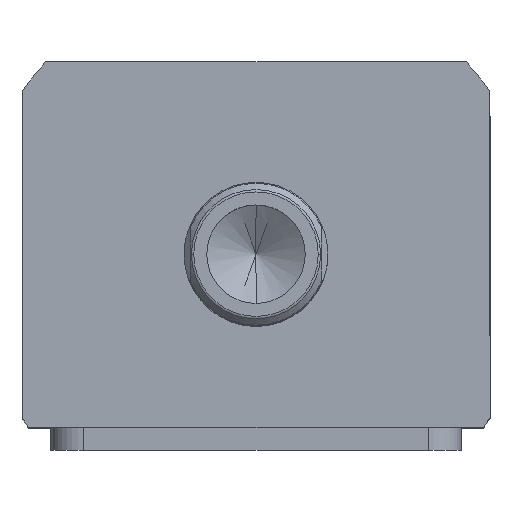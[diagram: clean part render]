
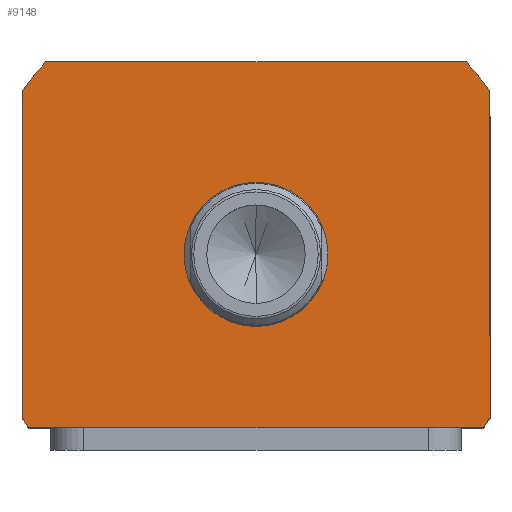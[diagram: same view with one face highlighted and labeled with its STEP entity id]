
A CAD part, top view. The second image highlights one B-rep face of the part: STEP entity #9148.
In plain terms, the highlighted planar face has unit normal (0, 0, 1) as drawn and (0, 0, -1) by its records, which use the part's own axes.
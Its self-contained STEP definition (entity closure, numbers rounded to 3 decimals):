
#249 = VERTEX_POINT ( 'NONE', #5725 ) ;
#503 = DIRECTION ( 'NONE',  ( 0., 0., 1. ) ) ;
#515 = EDGE_CURVE ( 'NONE', #14000, #3251, #17285, .T. ) ;
#536 = DIRECTION ( 'NONE',  ( 1., 0., 0. ) ) ;
#1214 = DIRECTION ( 'NONE',  ( 1., 0., 0. ) ) ;
#1442 = FACE_BOUND ( 'NONE', #14295, .T. ) ;
#1772 = DIRECTION ( 'NONE',  ( 0., 0., 1. ) ) ;
#1833 = CIRCLE ( 'NONE', #18008, 17.5 ) ;
#2232 = EDGE_CURVE ( 'NONE', #17280, #14000, #8197, .T. ) ;
#2396 = DIRECTION ( 'NONE',  ( 0., 0., 1. ) ) ;
#2477 = EDGE_CURVE ( 'NONE', #17463, #249, #2928, .T. ) ;
#2928 = CIRCLE ( 'NONE', #16081, 69.5 ) ;
#2991 = DIRECTION ( 'NONE',  ( 0., 0., 1. ) ) ;
#3007 = CARTESIAN_POINT ( 'NONE',  ( 57., -99.262, 0. ) ) ;
#3083 = AXIS2_PLACEMENT_3D ( 'NONE', #15004, #9223, #536 ) ;
#3112 = CARTESIAN_POINT ( 'NONE',  ( -55.374, -17.497, 0. ) ) ;
#3137 = AXIS2_PLACEMENT_3D ( 'NONE', #11757, #2991, #13237 ) ;
#3251 = VERTEX_POINT ( 'NONE', #10881 ) ;
#3320 = ORIENTED_EDGE ( 'NONE', *, *, #14725, .T. ) ;
#3330 = PLANE ( 'NONE',  #3083 ) ;
#3455 = DIRECTION ( 'NONE',  ( -1., 0., 0. ) ) ;
#3510 = CARTESIAN_POINT ( 'NONE',  ( -57., -17.497, 0. ) ) ;
#3522 = CARTESIAN_POINT ( 'NONE',  ( -17.5, -59.497, 0. ) ) ;
#3764 = AXIS2_PLACEMENT_3D ( 'NONE', #9191, #503, #10654 ) ;
#4022 = ORIENTED_EDGE ( 'NONE', *, *, #2232, .F. ) ;
#4458 = CARTESIAN_POINT ( 'NONE',  ( -57., -17.497, 0. ) ) ;
#4531 = EDGE_CURVE ( 'NONE', #7756, #17280, #8862, .T. ) ;
#4569 = CARTESIAN_POINT ( 'NONE',  ( 0., -59.497, 0. ) ) ;
#4802 = VERTEX_POINT ( 'NONE', #3522 ) ;
#5134 = ORIENTED_EDGE ( 'NONE', *, *, #11023, .F. ) ;
#5413 = VECTOR ( 'NONE', #16139, 1000. ) ;
#5414 = CARTESIAN_POINT ( 'NONE',  ( 57., -17.497, 0. ) ) ;
#5511 = VERTEX_POINT ( 'NONE', #3007 ) ;
#5725 = CARTESIAN_POINT ( 'NONE',  ( -51.198, -106.497, 0. ) ) ;
#5764 = DIRECTION ( 'NONE',  ( 1., 0., 0. ) ) ;
#6386 = EDGE_CURVE ( 'NONE', #5511, #7756, #6450, .T. ) ;
#6450 = LINE ( 'NONE', #5414, #17607 ) ;
#6645 = ORIENTED_EDGE ( 'NONE', *, *, #515, .F. ) ;
#7203 = DIRECTION ( 'NONE',  ( 0., 0., 1. ) ) ;
#7756 = VERTEX_POINT ( 'NONE', #15733 ) ;
#8197 = LINE ( 'NONE', #3510, #15921 ) ;
#8862 = CIRCLE ( 'NONE', #3764, 69.5 ) ;
#9148 = ADVANCED_FACE ( 'NONE', ( #1442, #16882 ), #3330, .F. ) ;
#9191 = CARTESIAN_POINT ( 'NONE',  ( 0., -59.497, 0. ) ) ;
#9223 = DIRECTION ( 'NONE',  ( 0., 0., 1. ) ) ;
#9497 = ORIENTED_EDGE ( 'NONE', *, *, #12389, .F. ) ;
#9910 = CARTESIAN_POINT ( 'NONE',  ( -57., -106.497, 0. ) ) ;
#10131 = CARTESIAN_POINT ( 'NONE',  ( 55.374, -17.497, 0. ) ) ;
#10493 = CARTESIAN_POINT ( 'NONE',  ( 0., -59.497, 0. ) ) ;
#10654 = DIRECTION ( 'NONE',  ( 1., 0., 0. ) ) ;
#10881 = CARTESIAN_POINT ( 'NONE',  ( -57., -19.732, 0. ) ) ;
#11023 = EDGE_CURVE ( 'NONE', #18023, #5511, #13944, .T. ) ;
#11135 = CARTESIAN_POINT ( 'NONE',  ( 0., -59.497, 0. ) ) ;
#11324 = AXIS2_PLACEMENT_3D ( 'NONE', #4569, #14251, #5764 ) ;
#11757 = CARTESIAN_POINT ( 'NONE',  ( 0., -59.497, 0. ) ) ;
#11941 = CARTESIAN_POINT ( 'NONE',  ( -57., -99.262, 0. ) ) ;
#11967 = DIRECTION ( 'NONE',  ( 1., 0., 0. ) ) ;
#12017 = ORIENTED_EDGE ( 'NONE', *, *, #2477, .F. ) ;
#12341 = LINE ( 'NONE', #9910, #15715 ) ;
#12389 = EDGE_CURVE ( 'NONE', #249, #18023, #12341, .T. ) ;
#12478 = ORIENTED_EDGE ( 'NONE', *, *, #4531, .F. ) ;
#12625 = DIRECTION ( 'NONE',  ( 1., 0., 0. ) ) ;
#12754 = LINE ( 'NONE', #4458, #5413 ) ;
#13138 = AXIS2_PLACEMENT_3D ( 'NONE', #10493, #1772, #11967 ) ;
#13237 = DIRECTION ( 'NONE',  ( 1., 0., 0. ) ) ;
#13409 = ORIENTED_EDGE ( 'NONE', *, *, #16299, .T. ) ;
#13428 = EDGE_LOOP ( 'NONE', ( #12478, #16318, #5134, #9497, #12017, #18758, #6645, #4022 ) ) ;
#13905 = CIRCLE ( 'NONE', #3137, 17.5 ) ;
#13944 = CIRCLE ( 'NONE', #13138, 69.5 ) ;
#14000 = VERTEX_POINT ( 'NONE', #3112 ) ;
#14251 = DIRECTION ( 'NONE',  ( 0., 0., 1. ) ) ;
#14295 = EDGE_LOOP ( 'NONE', ( #3320, #13409 ) ) ;
#14725 = EDGE_CURVE ( 'NONE', #18460, #4802, #13905, .T. ) ;
#15004 = CARTESIAN_POINT ( 'NONE',  ( 0., 0., 0. ) ) ;
#15308 = CARTESIAN_POINT ( 'NONE',  ( 51.198, -106.497, 0. ) ) ;
#15715 = VECTOR ( 'NONE', #1214, 1000. ) ;
#15733 = CARTESIAN_POINT ( 'NONE',  ( 57., -19.732, 0. ) ) ;
#15913 = CARTESIAN_POINT ( 'NONE',  ( 0., -59.497, 0. ) ) ;
#15921 = VECTOR ( 'NONE', #3455, 1000. ) ;
#16081 = AXIS2_PLACEMENT_3D ( 'NONE', #15913, #7203, #17359 ) ;
#16134 = CARTESIAN_POINT ( 'NONE',  ( 17.5, -59.497, 0. ) ) ;
#16139 = DIRECTION ( 'NONE',  ( 0., -1., 0. ) ) ;
#16299 = EDGE_CURVE ( 'NONE', #4802, #18460, #1833, .T. ) ;
#16318 = ORIENTED_EDGE ( 'NONE', *, *, #6386, .F. ) ;
#16794 = EDGE_CURVE ( 'NONE', #3251, #17463, #12754, .T. ) ;
#16882 = FACE_OUTER_BOUND ( 'NONE', #13428, .T. ) ;
#17063 = DIRECTION ( 'NONE',  ( 0., 1., 0. ) ) ;
#17280 = VERTEX_POINT ( 'NONE', #10131 ) ;
#17285 = CIRCLE ( 'NONE', #11324, 69.5 ) ;
#17359 = DIRECTION ( 'NONE',  ( 1., 0., 0. ) ) ;
#17463 = VERTEX_POINT ( 'NONE', #11941 ) ;
#17607 = VECTOR ( 'NONE', #17063, 1000. ) ;
#18008 = AXIS2_PLACEMENT_3D ( 'NONE', #11135, #2396, #12625 ) ;
#18023 = VERTEX_POINT ( 'NONE', #15308 ) ;
#18460 = VERTEX_POINT ( 'NONE', #16134 ) ;
#18758 = ORIENTED_EDGE ( 'NONE', *, *, #16794, .F. ) ;
